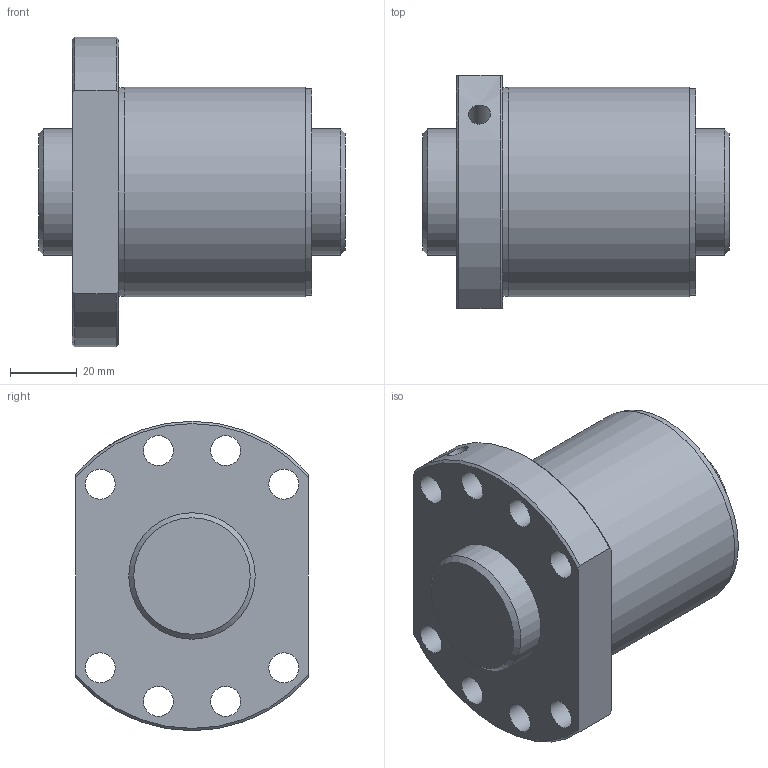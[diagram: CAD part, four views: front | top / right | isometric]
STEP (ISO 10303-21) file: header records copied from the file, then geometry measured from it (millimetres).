
FILE_DESCRIPTION(/* description */ ('STEP AP203'),/* implementation_level */ '2;1');
FILE_NAME(/* name */ 'SDA3812V-5G0+92LC0(0G000)',/* time_stamp */ '2024-05-28T11:33:34+02:00',/* author */ ('License CC BY-ND 4.0'),/* organization */ ('CADENAS'),/* preprocessor_version */ 'ST-DEVELOPER v19.3',/* originating_system */ 'PARTsolutions',/* authorisation */ ' ');
FILE_SCHEMA (('CONFIG_CONTROL_DESIGN'));
Length unit declared in the file: millimetre
Products named in the file (3): SDA3812V-5G0+92LC0(0G000); 000SDA3812V-50Shaft; SDA-V serieSDA3812V-5nut
Assembly tree (2 placements, depth 2):
  SDA3812V-5G0+92LC0(0G000)
    000SDA3812V-50Shaft
    SDA-V serieSDA3812V-5nut
Bounding box: 92 x 70 x 93 mm (x, y, z)
Volume: 276506.1 mm3; surface area: 49006.9 mm2
Topology: 2 solids, 2 shells, 33 faces, 75 edges, 49 vertices
Faces by surface type: cylinder 17, plane 9, cone 7
Full cylindrical faces by diameter (mm): 5.2 x1, 6.647 x1, 9 x8, 38 x2, 62 x1, 62.6 x1, 63 x1
Entity records: 983 total; most frequent: CARTESIAN_POINT 184, DIRECTION 156, ORIENTED_EDGE 112, EDGE_LOOP 74, FACE_BOUND 74, AXIS2_PLACEMENT_3D 74, EDGE_CURVE 56, VERTEX_POINT 48
